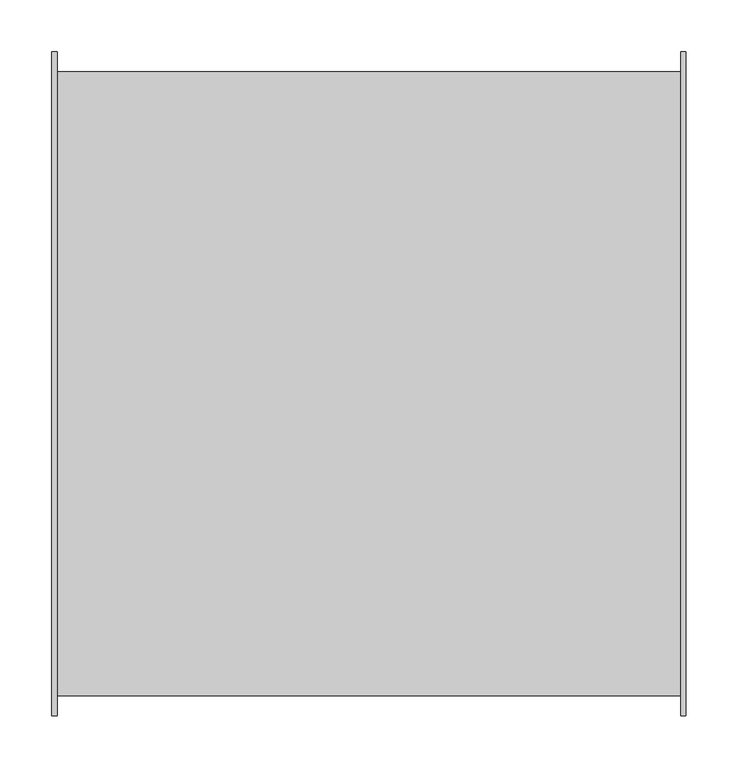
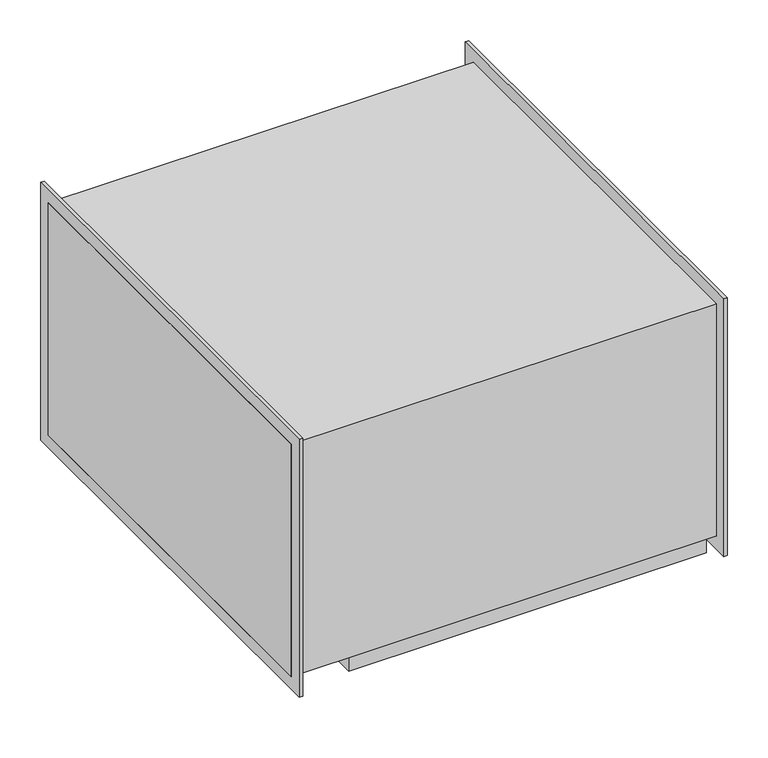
"""IFC4 building model written with IfcOpenShell, lengths in millimetres: unitary equipment geometry, VE-Wentylator-ParaForma-Harmann-DRB_EC-Nawiewny : 060/35/3050EC."""

from ifc_helpers import new_model, si_unit, point, frame, frame_2d, origin, place, context, project, spatial, polyline, circle_curve, trimmed, segment, composite_curve, outline, extrude, faceted_brep, source, transform, mapped, element, save
from ifc_brep_helpers import plane_surface, revolved_surface, advanced_brep


def unitary_equipment_d235b29f(model_context):
    return source(origin(), model_context, "Body", "SolidModel", [
        faceted_brep([(-213.5, -282.9, -209.0), (-213.5, -282.9, -175.0), (-213.5, 197.1, -175.0), (-213.5, 197.1, -209.0), (295.5, -282.9, -209.0), (295.5, 197.1, -209.0), (295.5, 197.1, -175.0), (295.5, -282.9, -175.0), (-208.5, 192.1, -209.0), (-208.5, -277.9, -209.0), (290.5, -277.9, -209.0), (290.5, 192.1, -209.0), (-208.5, 192.1, -175.0), (-208.5, -277.9, -175.0), (290.5, -277.9, -175.0), (290.5, 192.1, -175.0), (-305.0, -300.0, 175.0), (-305.0, -300.0, -175.0), (305.0, -300.0, -175.0), (305.0, -300.0, 175.0), (-305.0, 300.0, 175.0), (305.0, 300.0, 175.0), (-305.0, 300.0, -175.0), (305.0, 300.0, -175.0)], [[[0, 1, 2, 3]], [[4, 5, 6, 7]], [[1, 0, 4, 7]], [[3, 2, 6, 5]], [[0, 3, 5, 4], [8, 9, 10, 11]], [[8, 12, 13, 9]], [[10, 14, 15, 11]], [[9, 13, 14, 10]], [[12, 8, 11, 15]], [[16, 17, 18, 19]], [[20, 16, 19, 21]], [[22, 20, 21, 23]], [[13, 12, 15, 14]], [[18, 17, 22, 23], [2, 1, 7, 6]], [[17, 16, 20, 22]], [[18, 23, 21, 19]]]),
        extrude(outline(polyline([(-319.2, -194.2), (-319.2, 194.2), (319.2, 194.2), (319.2, -194.2), (-319.2, -194.2)]), holes=[polyline([(-300.0, -175.0), (300.0, -175.0), (300.0, 175.0), (-300.0, 175.0), (-300.0, -175.0)])]), frame((300.0, 0.0, 0.0), z_axis=(1.0, 0.0, 0.0), x_axis=(0.0, 1.0, 0.0)), (0.0, 0.0, 1.0), 5.0),
        extrude(outline(polyline([(-319.2, -194.2), (-319.2, 194.2), (319.2, 194.2), (319.2, -194.2), (-319.2, -194.2)]), holes=[polyline([(-300.0, -175.0), (300.0, -175.0), (300.0, 175.0), (-300.0, 175.0), (-300.0, -175.0)])]), frame((-305.0, 0.0, 0.0), z_axis=(1.0, 0.0, 0.0), x_axis=(0.0, 1.0, 0.0)), (0.0, 0.0, 1.0), 5.0),
        extrude(outline(composite_curve([segment(polyline([(77.5, 77.4), (-22.5, 77.4)]), True, "CONTINUOUS"), segment(trimmed(circle_curve(frame_2d((-22.5, 82.4)), 5.0), [point((-22.5, 77.4))], [point((-27.5, 82.4))], False, "CARTESIAN"), True, "CONTINUOUS"), segment(polyline([(-27.5, 82.4), (-27.5, 167.4)]), True, "CONTINUOUS"), segment(trimmed(circle_curve(frame_2d((-22.5, 167.4)), 5.0), [point((-27.5, 167.4))], [point((-22.5, 172.4))], False, "CARTESIAN"), True, "CONTINUOUS"), segment(polyline([(-22.5, 172.4), (77.5, 172.4)]), True, "CONTINUOUS"), segment(trimmed(circle_curve(frame_2d((77.5, 167.4)), 5.0), [point((77.5, 172.4))], [point((82.5, 167.4))], False, "CARTESIAN"), True, "CONTINUOUS"), segment(polyline([(82.5, 167.4), (82.5, 82.4)]), True, "CONTINUOUS"), segment(trimmed(circle_curve(frame_2d((77.5, 82.4)), 5.0), [point((82.5, 82.4))], [point((77.5, 77.4))], False, "CARTESIAN"), True, "CONTINUOUS")], self_intersect=False)), frame((0.0, 0.0, -224.5), z_axis=(0.0, 0.0, 1.0), x_axis=(1.0, 0.0, 0.0)), (0.0, 0.0, 1.0), 49.5),
        advanced_brep(
        [(27.5, -118.15, -190.0), (27.5, 32.35, -190.0), (27.5, -138.15, -175.0), (27.5, 52.35, -175.0)],
        [
            (0, 1, circle_curve(frame((27.5, -42.9, -190.0), z_axis=(0.0, 0.0, -1.0), x_axis=(0.0, -1.0, 0.0)), 75.25)),
            (1, 0, circle_curve(frame((27.5, -42.9, -190.0), z_axis=(0.0, 0.0, -1.0), x_axis=(0.0, 1.0, 0.0)), 75.25)),
            (2, 3, circle_curve(frame((27.5, -42.9, -175.0), z_axis=(0.0, 0.0, 1.0), x_axis=(0.0, 1.0, 0.0)), 95.25)),
            (3, 2, circle_curve(frame((27.5, -42.9, -175.0), z_axis=(0.0, 0.0, 1.0), x_axis=(0.0, -1.0, 0.0)), 95.25)),
            (3, 1),
            (0, 2),
        ],
        [
            plane_surface(frame((27.5, -42.9, -190.0), z_axis=(0.0, 0.0, -1.0), x_axis=(-1.0, 0.0, 0.0))),
            plane_surface(frame((27.5, -42.9, -175.0), z_axis=(0.0, 0.0, 1.0), x_axis=(-1.0, 0.0, 0.0))),
            revolved_surface(polyline([(27.5, -118.15, -190.0), (27.5, -138.15, -175.0)]), (27.5, -42.9, -246.4375), (0.0, 0.0, 1.0)),
            revolved_surface(polyline([(27.5, 32.35, -190.0), (27.5, 52.35, -175.0)]), (27.5, -42.9, -246.4375), (0.0, 0.0, 1.0)),
        ],
        [
            (0, [[1, 2]]),
            (1, [[3, 4]]),
            (2, [[-4, 5, -1, 6]]),
            (3, [[-3, -6, -2, -5]]),
        ],
    ),
    ])


if __name__ == "__main__":
    model = new_model("IFC4")
    model_context = context("Model", 3, world=origin())
    ifc_project = project(units=[si_unit("LENGTHUNIT", "METRE", prefix="MILLI")], contexts=[model_context])
    site = spatial("IfcSite", under=ifc_project)
    building = spatial("IfcBuilding", under=site)
    placement = place(None, origin())
    unitary_equipment_shape = unitary_equipment_d235b29f(model_context)
    element("IfcUnitaryEquipment", 1, ObjectType="VE-Wentylator-ParaForma-Harmann-DRB_EC-Nawiewny : 060/35/3050EC", at=placement, inside=building, context=model_context, shape_type="MappedRepresentation", body=[
        mapped(unitary_equipment_shape, transform((0.0, 0.0, 0.0), x_axis=(1.0, 0.0, 0.0), y_axis=(0.0, 1.0, 0.0), z_axis=(0.0, 0.0, 1.0))),
    ])
    save(model, "model.ifc")
